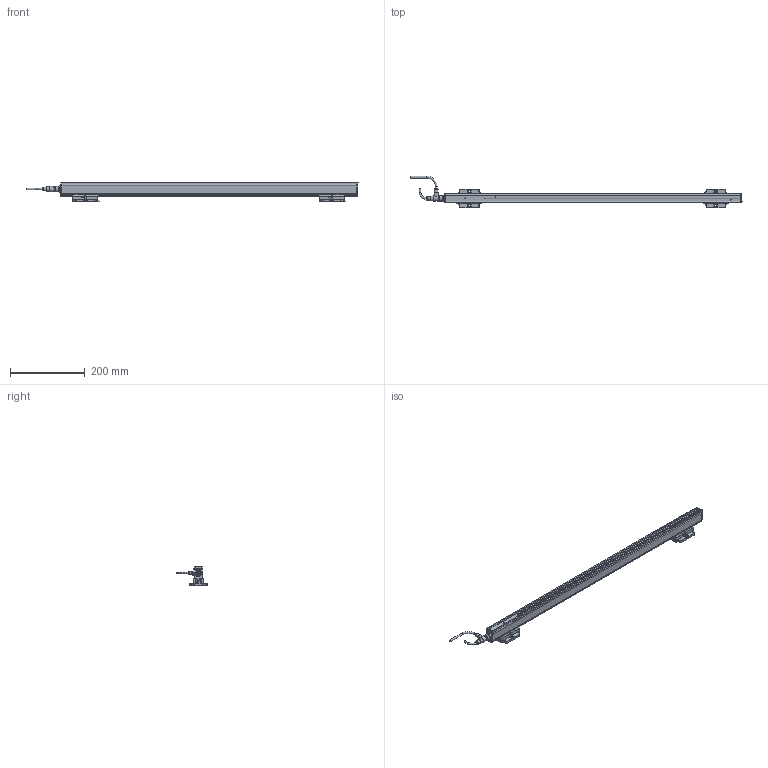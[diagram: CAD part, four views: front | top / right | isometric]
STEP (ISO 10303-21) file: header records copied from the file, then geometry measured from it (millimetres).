
FILE_DESCRIPTION(('Bauteilbeschreibung','HiCAD-Model','HiCAD-STEP-TRANSLATION','Bauteilbeschreibung'),'2;1');
FILE_NAME('PERFORMAXEASY_630-810_3D.STP','2014-07-03T16:22:54+00:00',('Konstrukteur'),('Konstrukteur Firma GmbH'),' HiCAD 2011, Step 1600.0 ','HiCAD 2011','confidential');
FILE_SCHEMA(('AUTOMOTIVE_DESIGN { 1 2 10303 214 0 1 1 1 }'));
Products named in the file (34): PERFORMAXEASY_630_810_3D; A_PERFORMAX EASY SPEED 630_810; A_END CAP; A0END0CAP; A_PIN; A0PIN; A_PROFILE; A_POTTING; A_LED; A519020315_CONNECTOR APPLIANCE; A_INSERT; A_CONTACTS; A_HOUSING; A_CONNECTOR STRAIGHT; EXTRUDED SOLID_0; DRAAD GEBOGEN; REVOLVED SOLID_1; REVOLVED SOLID_3; A_CONNECTOR ANGLED; REVOLVED0SOLID01; EXTRUDED0SOLID00; C_EDGE SWEEP_0; REVOLVED SOLID_2; REVOLVED0SOLID03; A532000100_MOUNTING BRACKET BA; A_SIDE PIECE; A0SIDE0PIECE; A_SLIDE PIECE; A_BRACKET SMALL; A5320001000MOUNTING0BRACKET0BA; A0SIDE0PIECE0; A0SIDE0PIECE1; A0SLIDE0PIECE; A0BRACKET0SMALL
Assembly tree (33 placements, depth 4):
  PERFORMAXEASY_630_810_3D
    A_PERFORMAX EASY SPEED 630_810
      A_END CAP
      A0END0CAP
      A_PIN
      A0PIN
      A_PROFILE
      A_POTTING
      A_LED
      A519020315_CONNECTOR APPLIANCE
        A_INSERT
        A_CONTACTS
        A_HOUSING
      A_CONNECTOR STRAIGHT
        EXTRUDED SOLID_0
        DRAAD GEBOGEN
        REVOLVED SOLID_1
        REVOLVED SOLID_3
      A_CONNECTOR ANGLED
        REVOLVED0SOLID01
        EXTRUDED0SOLID00
        C_EDGE SWEEP_0
        REVOLVED SOLID_2
        REVOLVED0SOLID03
      A532000100_MOUNTING BRACKET BA
        A_SIDE PIECE
        A0SIDE0PIECE
        A_SLIDE PIECE
        A_BRACKET SMALL
      A5320001000MOUNTING0BRACKET0BA
        A0SIDE0PIECE0
        A0SIDE0PIECE1
        A0SLIDE0PIECE
        A0BRACKET0SMALL
Bounding box: 888.57 x 84.25 x 52.29 mm (x, y, z)
Volume: 613062 mm3; surface area: 206961.2 mm2
Topology: 32 solids, 38 shells, 1579 faces, 3946 edges, 2370 vertices
Faces by surface type: cylinder 682, plane 629, torus 102, sphere 78, bspline 64, cone 24
Full cylindrical faces by diameter (mm): 0.8 x10, 1 x5, 1.48 x2, 2.661 x1, 3 x8, 4.2 x2, 5 x4, 5.5 x10, 8 x2, 8.2 x1, 8.4 x2, 8.945 x1, 9 x2, 10.2 x1, 10.5 x3, 11 x1, 12 x3, 12.8 x1, 13.8 x4, 14.5 x3
Entity records: 70499 total; most frequent: CARTESIAN_POINT 15344, DIRECTION 7878, ORIENTED_EDGE 7410, EDGE_CURVE 3705, COLOUR_RGB 3546, PRESENTATION_STYLE_ASSIGNMENT 3546, OVER_RIDING_STYLED_ITEM 3519, CURVE_STYLE 3509
